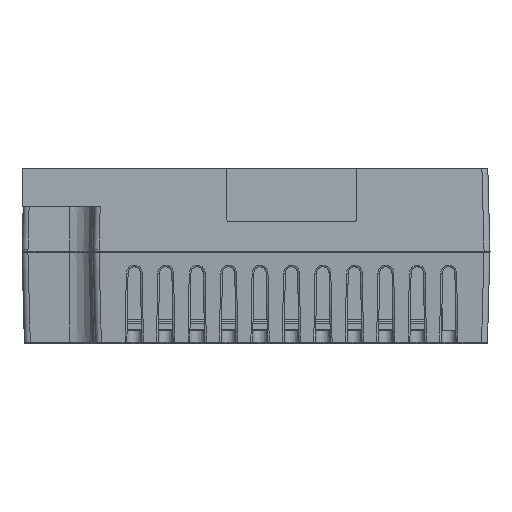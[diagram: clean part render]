
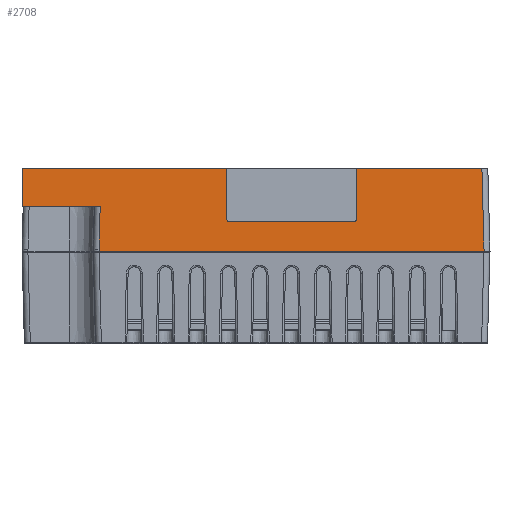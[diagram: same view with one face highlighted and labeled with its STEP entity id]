
A CAD part, left-side view. The second image highlights one B-rep face of the part: STEP entity #2708.
In plain terms, the highlighted planar face has unit normal (-1, 0, 0.026).
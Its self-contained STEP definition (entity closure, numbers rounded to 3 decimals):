
#218 = VECTOR ( 'NONE', #21471, 1000. ) ;
#562 = VERTEX_POINT ( 'NONE', #13146 ) ;
#1282 = DIRECTION ( 'NONE',  ( 0.026, 0., 1. ) ) ;
#2058 = ORIENTED_EDGE ( 'NONE', *, *, #38035, .F. ) ;
#2306 = CARTESIAN_POINT ( 'NONE',  ( 0.144, 44.5, 5.503 ) ) ;
#2708 = ADVANCED_FACE ( 'NONE', ( #8619 ), #44651, .T. ) ;
#3118 = CARTESIAN_POINT ( 'NONE',  ( -0.001, 0.999, -0.026 ) ) ;
#3684 = CARTESIAN_POINT ( 'NONE',  ( 0., 0., 0. ) ) ;
#3878 = EDGE_CURVE ( 'NONE', #33214, #7902, #5170, .T. ) ;
#4158 = LINE ( 'NONE', #3684, #19342 ) ;
#4263 = ORIENTED_EDGE ( 'NONE', *, *, #12984, .T. ) ;
#4542 = CARTESIAN_POINT ( 'NONE',  ( 0.367, 44.5, 14. ) ) ;
#4585 = VECTOR ( 'NONE', #28447, 1000. ) ;
#4663 = ORIENTED_EDGE ( 'NONE', *, *, #8150, .F. ) ;
#4879 = CARTESIAN_POINT ( 'NONE',  ( 0., 0., 0. ) ) ;
#5170 = LINE ( 'NONE', #10380, #4585 ) ;
#5543 = VERTEX_POINT ( 'NONE', #29535 ) ;
#6372 = VECTOR ( 'NONE', #23076, 1000. ) ;
#6630 = LINE ( 'NONE', #34824, #45473 ) ;
#6666 = ORIENTED_EDGE ( 'NONE', *, *, #45754, .F. ) ;
#6877 = EDGE_CURVE ( 'NONE', #18860, #21244, #15372, .T. ) ;
#7902 = VERTEX_POINT ( 'NONE', #4542 ) ;
#8150 = EDGE_CURVE ( 'NONE', #35400, #19142, #11958, .T. ) ;
#8330 = DIRECTION ( 'NONE',  ( 0.026, 0., 1. ) ) ;
#8619 = FACE_OUTER_BOUND ( 'NONE', #34189, .T. ) ;
#8930 = DIRECTION ( 'NONE',  ( -1., 0., 0.026 ) ) ;
#9176 = ORIENTED_EDGE ( 'NONE', *, *, #13278, .T. ) ;
#10380 = CARTESIAN_POINT ( 'NONE',  ( 0.367, 0., 14. ) ) ;
#10558 = CIRCLE ( 'NONE', #34913, 0.5 ) ;
#10829 = CARTESIAN_POINT ( 'NONE',  ( 0.196, 79., 7.5 ) ) ;
#10934 = LINE ( 'NONE', #30435, #6372 ) ;
#10992 = EDGE_CURVE ( 'NONE', #18860, #43229, #6630, .T. ) ;
#11947 = VERTEX_POINT ( 'NONE', #2306 ) ;
#11958 = LINE ( 'NONE', #20736, #37200 ) ;
#12435 = VERTEX_POINT ( 'NONE', #26751 ) ;
#12538 = CARTESIAN_POINT ( 'NONE',  ( 0., 66., 0. ) ) ;
#12814 = CIRCLE ( 'NONE', #19748, 0.5 ) ;
#12984 = EDGE_CURVE ( 'NONE', #33216, #19142, #32300, .T. ) ;
#13146 = CARTESIAN_POINT ( 'NONE',  ( 0.144, 22.5, 5.503 ) ) ;
#13278 = EDGE_CURVE ( 'NONE', #11947, #7902, #10934, .T. ) ;
#14229 = DIRECTION ( 'NONE',  ( 0., -1., 0. ) ) ;
#14907 = ORIENTED_EDGE ( 'NONE', *, *, #10992, .F. ) ;
#15372 = LINE ( 'NONE', #37620, #17631 ) ;
#16151 = ORIENTED_EDGE ( 'NONE', *, *, #3878, .F. ) ;
#17522 = LINE ( 'NONE', #22779, #22069 ) ;
#17631 = VECTOR ( 'NONE', #45186, 1000. ) ;
#18860 = VERTEX_POINT ( 'NONE', #28907 ) ;
#19142 = VERTEX_POINT ( 'NONE', #40697 ) ;
#19342 = VECTOR ( 'NONE', #14229, 1000. ) ;
#19748 = AXIS2_PLACEMENT_3D ( 'NONE', #23928, #23319, #20182 ) ;
#19846 = EDGE_CURVE ( 'NONE', #21244, #33216, #4158, .T. ) ;
#20182 = DIRECTION ( 'NONE',  ( 0.026, 0., 1. ) ) ;
#20663 = EDGE_CURVE ( 'NONE', #562, #35400, #41518, .T. ) ;
#20736 = CARTESIAN_POINT ( 'NONE',  ( 0.367, 0., 14. ) ) ;
#21244 = VERTEX_POINT ( 'NONE', #12538 ) ;
#21471 = DIRECTION ( 'NONE',  ( -0.026, 0., -1. ) ) ;
#22069 = VECTOR ( 'NONE', #44159, 1000. ) ;
#22745 = LINE ( 'NONE', #28520, #218 ) ;
#22777 = VECTOR ( 'NONE', #45748, 1000. ) ;
#22779 = CARTESIAN_POINT ( 'NONE',  ( 0.131, 44., 5.003 ) ) ;
#23076 = DIRECTION ( 'NONE',  ( 0.026, 0., 1. ) ) ;
#23319 = DIRECTION ( 'NONE',  ( -1., 0., 0.026 ) ) ;
#23928 = CARTESIAN_POINT ( 'NONE',  ( 0.144, 23., 5.503 ) ) ;
#24003 = DIRECTION ( 'NONE',  ( -0.026, 0., -1. ) ) ;
#24011 = DIRECTION ( 'NONE',  ( 0., 1., 0. ) ) ;
#24479 = DIRECTION ( 'NONE',  ( 0., -1., 0. ) ) ;
#26027 = ORIENTED_EDGE ( 'NONE', *, *, #34462, .T. ) ;
#26751 = CARTESIAN_POINT ( 'NONE',  ( 0.131, 23., 5.003 ) ) ;
#26850 = ORIENTED_EDGE ( 'NONE', *, *, #19846, .T. ) ;
#27459 = CARTESIAN_POINT ( 'NONE',  ( 0., 1., 0. ) ) ;
#27736 = ORIENTED_EDGE ( 'NONE', *, *, #20663, .F. ) ;
#28447 = DIRECTION ( 'NONE',  ( 0., -1., 0. ) ) ;
#28520 = CARTESIAN_POINT ( 'NONE',  ( 0., 79., 0. ) ) ;
#28907 = CARTESIAN_POINT ( 'NONE',  ( 0.196, 65.804, 7.5 ) ) ;
#29535 = CARTESIAN_POINT ( 'NONE',  ( 0.131, 44., 5.003 ) ) ;
#30435 = CARTESIAN_POINT ( 'NONE',  ( 0., 44.5, 0. ) ) ;
#30455 = CARTESIAN_POINT ( 'NONE',  ( 0.144, 44., 5.503 ) ) ;
#31548 = CARTESIAN_POINT ( 'NONE',  ( 0.367, 22.5, 14. ) ) ;
#32300 = LINE ( 'NONE', #3118, #22777 ) ;
#32571 = VECTOR ( 'NONE', #1282, 1000. ) ;
#33214 = VERTEX_POINT ( 'NONE', #45724 ) ;
#33216 = VERTEX_POINT ( 'NONE', #27459 ) ;
#34189 = EDGE_LOOP ( 'NONE', ( #4663, #27736, #38064, #6666, #2058, #9176, #16151, #26027, #14907, #37489, #26850, #4263 ) ) ;
#34462 = EDGE_CURVE ( 'NONE', #33214, #43229, #22745, .T. ) ;
#34824 = CARTESIAN_POINT ( 'NONE',  ( 0.196, 8.5, 7.5 ) ) ;
#34913 = AXIS2_PLACEMENT_3D ( 'NONE', #30455, #8930, #24003 ) ;
#35400 = VERTEX_POINT ( 'NONE', #31548 ) ;
#37200 = VECTOR ( 'NONE', #24479, 1000. ) ;
#37383 = DIRECTION ( 'NONE',  ( -1., 0., 0.026 ) ) ;
#37401 = CARTESIAN_POINT ( 'NONE',  ( 0.473, 22.5, 18.045 ) ) ;
#37489 = ORIENTED_EDGE ( 'NONE', *, *, #6877, .T. ) ;
#37620 = CARTESIAN_POINT ( 'NONE',  ( 0.045, 65.955, 1.726 ) ) ;
#38035 = EDGE_CURVE ( 'NONE', #11947, #5543, #10558, .T. ) ;
#38064 = ORIENTED_EDGE ( 'NONE', *, *, #42312, .F. ) ;
#40697 = CARTESIAN_POINT ( 'NONE',  ( 0.367, 1.366, 14. ) ) ;
#41518 = LINE ( 'NONE', #37401, #32571 ) ;
#41686 = AXIS2_PLACEMENT_3D ( 'NONE', #4879, #37383, #8330 ) ;
#42312 = EDGE_CURVE ( 'NONE', #12435, #562, #12814, .T. ) ;
#43229 = VERTEX_POINT ( 'NONE', #10829 ) ;
#44159 = DIRECTION ( 'NONE',  ( 0., -1., 0. ) ) ;
#44651 = PLANE ( 'NONE',  #41686 ) ;
#45186 = DIRECTION ( 'NONE',  ( -0.026, 0.026, -0.999 ) ) ;
#45473 = VECTOR ( 'NONE', #24011, 1000. ) ;
#45724 = CARTESIAN_POINT ( 'NONE',  ( 0.367, 79., 14. ) ) ;
#45748 = DIRECTION ( 'NONE',  ( 0.026, 0.026, 0.999 ) ) ;
#45754 = EDGE_CURVE ( 'NONE', #5543, #12435, #17522, .T. ) ;
